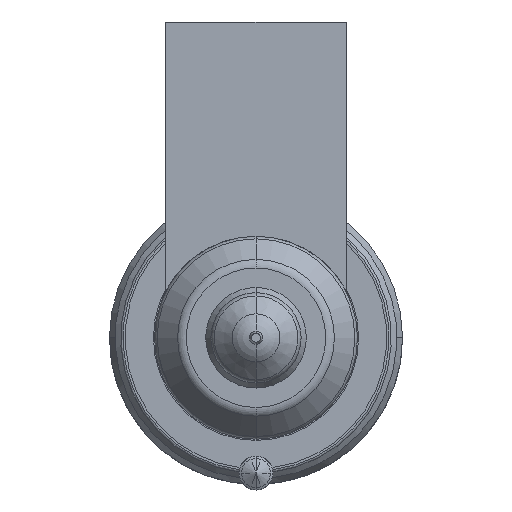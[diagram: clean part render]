
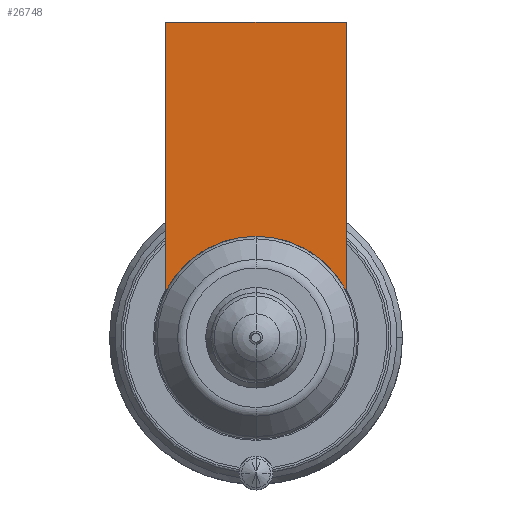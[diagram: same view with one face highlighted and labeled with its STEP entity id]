
A CAD part, front view. The second image highlights one B-rep face of the part: STEP entity #26748.
In plain terms, the highlighted planar face has unit normal (0, -1, 0).
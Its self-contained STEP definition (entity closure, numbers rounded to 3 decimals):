
#25861=DIRECTION('',(1.,0.,0.));
#25862=VECTOR('',#25861,16.);
#25863=CARTESIAN_POINT('',(-8.,-54.,28.));
#25864=LINE('',#25863,#25862);
#25869=CARTESIAN_POINT('',(0.,-54.,0.));
#25870=DIRECTION('',(0.,-1.,0.));
#25871=DIRECTION('',(0.889,0.,0.458));
#25872=AXIS2_PLACEMENT_3D('',#25869,#25870,#25871);
#25877=CARTESIAN_POINT('',(0.,-54.,0.));
#25878=DIRECTION('',(0.,-1.,0.));
#25879=DIRECTION('',(0.,0.,1.));
#25880=AXIS2_PLACEMENT_3D('',#25877,#25878,#25879);
#25906=DIRECTION('',(0.,0.,-1.));
#25907=VECTOR('',#25906,23.877);
#25908=CARTESIAN_POINT('',(-8.,-54.,28.));
#25909=LINE('',#25908,#25907);
#26592=DIRECTION('',(0.,0.,-1.));
#26593=VECTOR('',#26592,23.877);
#26594=CARTESIAN_POINT('',(8.,-54.,28.));
#26595=LINE('',#26594,#26593);
#26645=CARTESIAN_POINT('',(-8.,-54.,28.));
#26646=VERTEX_POINT('',#26645);
#26651=CARTESIAN_POINT('',(8.,-54.,28.));
#26652=VERTEX_POINT('',#26651);
#26655=CARTESIAN_POINT('',(-8.,-54.,4.123));
#26656=VERTEX_POINT('',#26655);
#26659=CARTESIAN_POINT('',(8.,-54.,4.123));
#26660=VERTEX_POINT('',#26659);
#26729=CARTESIAN_POINT('',(0.,-54.,9.));
#26730=VERTEX_POINT('',#26729);
#26731=CARTESIAN_POINT('',(0.,-54.,9.));
#26732=DIRECTION('',(0.,1.,0.));
#26733=DIRECTION('',(0.,0.,-1.));
#26734=AXIS2_PLACEMENT_3D('',#26731,#26732,#26733);
#26735=PLANE('',#26734);
#26737=ORIENTED_EDGE('',*,*,#26736,.F.);
#26739=ORIENTED_EDGE('',*,*,#26738,.T.);
#26741=ORIENTED_EDGE('',*,*,#26740,.T.);
#26743=ORIENTED_EDGE('',*,*,#26742,.T.);
#26745=ORIENTED_EDGE('',*,*,#26744,.T.);
#26746=EDGE_LOOP('',(#26737,#26739,#26741,#26743,#26745));
#26747=FACE_OUTER_BOUND('',#26746,.F.);
#26748=ADVANCED_FACE('',(#26747),#26735,.F.);
#25873=CIRCLE('',#25872,9.);
#25881=CIRCLE('',#25880,9.);
#26736=EDGE_CURVE('',#26646,#26656,#25909,.T.);
#26738=EDGE_CURVE('',#26646,#26652,#25864,.T.);
#26740=EDGE_CURVE('',#26652,#26660,#26595,.T.);
#26742=EDGE_CURVE('',#26660,#26730,#25873,.T.);
#26744=EDGE_CURVE('',#26730,#26656,#25881,.T.);
